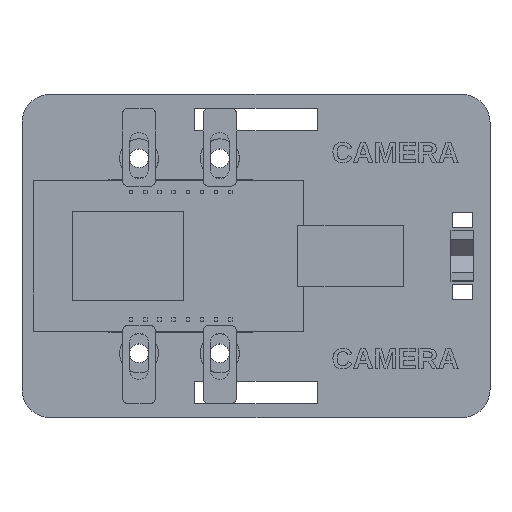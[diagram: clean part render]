
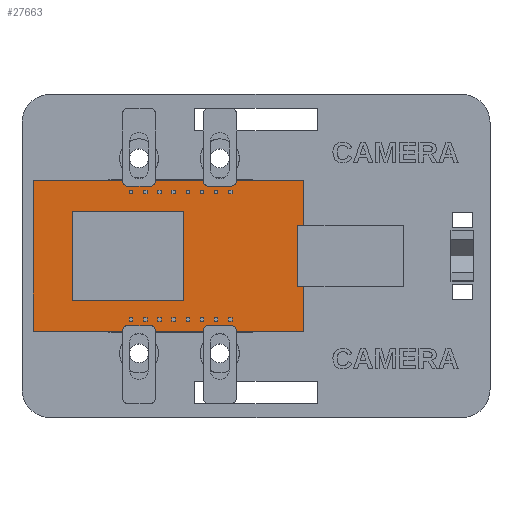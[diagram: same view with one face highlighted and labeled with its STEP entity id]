
A CAD part, top view. The second image highlights one B-rep face of the part: STEP entity #27663.
In plain terms, the highlighted planar face has unit normal (0, 0, 1).
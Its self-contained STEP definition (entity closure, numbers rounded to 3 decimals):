
#27349 = VERTEX_POINT('',#27350);
#27350 = CARTESIAN_POINT('',(-40.,-13.5,12.74));
#27357 = PLANE('',#27358);
#27358 = AXIS2_PLACEMENT_3D('',#27359,#27360,#27361);
#27359 = CARTESIAN_POINT('',(-40.,-13.5,11.14));
#27360 = DIRECTION('',(1.,0.,0.));
#27361 = DIRECTION('',(0.,0.,1.));
#27369 = PLANE('',#27370);
#27370 = AXIS2_PLACEMENT_3D('',#27371,#27372,#27373);
#27371 = CARTESIAN_POINT('',(-40.,-13.5,11.14));
#27372 = DIRECTION('',(0.,1.,0.));
#27373 = DIRECTION('',(0.,0.,1.));
#27410 = VERTEX_POINT('',#27411);
#27411 = CARTESIAN_POINT('',(-40.,13.5,12.74));
#27425 = PLANE('',#27426);
#27426 = AXIS2_PLACEMENT_3D('',#27427,#27428,#27429);
#27427 = CARTESIAN_POINT('',(-40.,13.5,11.14));
#27428 = DIRECTION('',(0.,1.,0.));
#27429 = DIRECTION('',(0.,0.,1.));
#27437 = EDGE_CURVE('',#27349,#27410,#27438,.T.);
#27438 = SURFACE_CURVE('',#27439,(#27443,#27450),.PCURVE_S1.);
#27439 = LINE('',#27440,#27441);
#27440 = CARTESIAN_POINT('',(-40.,-13.5,12.74));
#27441 = VECTOR('',#27442,1.);
#27442 = DIRECTION('',(0.,1.,0.));
#27443 = PCURVE('',#27357,#27444);
#27444 = DEFINITIONAL_REPRESENTATION('',(#27445),#27449);
#27445 = LINE('',#27446,#27447);
#27446 = CARTESIAN_POINT('',(1.6,0.));
#27447 = VECTOR('',#27448,1.);
#27448 = DIRECTION('',(0.,-1.));
#27449 = ( GEOMETRIC_REPRESENTATION_CONTEXT(2) 
PARAMETRIC_REPRESENTATION_CONTEXT() REPRESENTATION_CONTEXT('2D SPACE',''
  ) );
#27450 = PCURVE('',#27451,#27456);
#27451 = PLANE('',#27452);
#27452 = AXIS2_PLACEMENT_3D('',#27453,#27454,#27455);
#27453 = CARTESIAN_POINT('',(-40.,-13.5,12.74));
#27454 = DIRECTION('',(0.,0.,1.));
#27455 = DIRECTION('',(1.,0.,0.));
#27456 = DEFINITIONAL_REPRESENTATION('',(#27457),#27461);
#27457 = LINE('',#27458,#27459);
#27458 = CARTESIAN_POINT('',(0.,0.));
#27459 = VECTOR('',#27460,1.);
#27460 = DIRECTION('',(0.,1.));
#27461 = ( GEOMETRIC_REPRESENTATION_CONTEXT(2) 
PARAMETRIC_REPRESENTATION_CONTEXT() REPRESENTATION_CONTEXT('2D SPACE',''
  ) );
#27469 = VERTEX_POINT('',#27470);
#27470 = CARTESIAN_POINT('',(8.5,-13.5,12.74));
#27477 = PLANE('',#27478);
#27478 = AXIS2_PLACEMENT_3D('',#27479,#27480,#27481);
#27479 = CARTESIAN_POINT('',(8.5,-13.5,11.14));
#27480 = DIRECTION('',(1.,0.,0.));
#27481 = DIRECTION('',(0.,0.,1.));
#27520 = VERTEX_POINT('',#27521);
#27521 = CARTESIAN_POINT('',(8.5,13.5,12.74));
#27542 = EDGE_CURVE('',#27469,#27520,#27543,.T.);
#27543 = SURFACE_CURVE('',#27544,(#27548,#27555),.PCURVE_S1.);
#27544 = LINE('',#27545,#27546);
#27545 = CARTESIAN_POINT('',(8.5,-13.5,12.74));
#27546 = VECTOR('',#27547,1.);
#27547 = DIRECTION('',(0.,1.,0.));
#27548 = PCURVE('',#27477,#27549);
#27549 = DEFINITIONAL_REPRESENTATION('',(#27550),#27554);
#27550 = LINE('',#27551,#27552);
#27551 = CARTESIAN_POINT('',(1.6,0.));
#27552 = VECTOR('',#27553,1.);
#27553 = DIRECTION('',(0.,-1.));
#27554 = ( GEOMETRIC_REPRESENTATION_CONTEXT(2) 
PARAMETRIC_REPRESENTATION_CONTEXT() REPRESENTATION_CONTEXT('2D SPACE',''
  ) );
#27555 = PCURVE('',#27451,#27556);
#27556 = DEFINITIONAL_REPRESENTATION('',(#27557),#27561);
#27557 = LINE('',#27558,#27559);
#27558 = CARTESIAN_POINT('',(48.5,0.));
#27559 = VECTOR('',#27560,1.);
#27560 = DIRECTION('',(0.,1.));
#27561 = ( GEOMETRIC_REPRESENTATION_CONTEXT(2) 
PARAMETRIC_REPRESENTATION_CONTEXT() REPRESENTATION_CONTEXT('2D SPACE',''
  ) );
#27588 = EDGE_CURVE('',#27349,#27469,#27589,.T.);
#27589 = SURFACE_CURVE('',#27590,(#27594,#27601),.PCURVE_S1.);
#27590 = LINE('',#27591,#27592);
#27591 = CARTESIAN_POINT('',(-40.,-13.5,12.74));
#27592 = VECTOR('',#27593,1.);
#27593 = DIRECTION('',(1.,0.,0.));
#27594 = PCURVE('',#27369,#27595);
#27595 = DEFINITIONAL_REPRESENTATION('',(#27596),#27600);
#27596 = LINE('',#27597,#27598);
#27597 = CARTESIAN_POINT('',(1.6,0.));
#27598 = VECTOR('',#27599,1.);
#27599 = DIRECTION('',(0.,1.));
#27600 = ( GEOMETRIC_REPRESENTATION_CONTEXT(2) 
PARAMETRIC_REPRESENTATION_CONTEXT() REPRESENTATION_CONTEXT('2D SPACE',''
  ) );
#27601 = PCURVE('',#27451,#27602);
#27602 = DEFINITIONAL_REPRESENTATION('',(#27603),#27607);
#27603 = LINE('',#27604,#27605);
#27604 = CARTESIAN_POINT('',(0.,0.));
#27605 = VECTOR('',#27606,1.);
#27606 = DIRECTION('',(1.,0.));
#27607 = ( GEOMETRIC_REPRESENTATION_CONTEXT(2) 
PARAMETRIC_REPRESENTATION_CONTEXT() REPRESENTATION_CONTEXT('2D SPACE',''
  ) );
#27635 = EDGE_CURVE('',#27410,#27520,#27636,.T.);
#27636 = SURFACE_CURVE('',#27637,(#27641,#27648),.PCURVE_S1.);
#27637 = LINE('',#27638,#27639);
#27638 = CARTESIAN_POINT('',(-40.,13.5,12.74));
#27639 = VECTOR('',#27640,1.);
#27640 = DIRECTION('',(1.,0.,0.));
#27641 = PCURVE('',#27425,#27642);
#27642 = DEFINITIONAL_REPRESENTATION('',(#27643),#27647);
#27643 = LINE('',#27644,#27645);
#27644 = CARTESIAN_POINT('',(1.6,0.));
#27645 = VECTOR('',#27646,1.);
#27646 = DIRECTION('',(0.,1.));
#27647 = ( GEOMETRIC_REPRESENTATION_CONTEXT(2) 
PARAMETRIC_REPRESENTATION_CONTEXT() REPRESENTATION_CONTEXT('2D SPACE',''
  ) );
#27648 = PCURVE('',#27451,#27649);
#27649 = DEFINITIONAL_REPRESENTATION('',(#27650),#27654);
#27650 = LINE('',#27651,#27652);
#27651 = CARTESIAN_POINT('',(0.,27.));
#27652 = VECTOR('',#27653,1.);
#27653 = DIRECTION('',(1.,0.));
#27654 = ( GEOMETRIC_REPRESENTATION_CONTEXT(2) 
PARAMETRIC_REPRESENTATION_CONTEXT() REPRESENTATION_CONTEXT('2D SPACE',''
  ) );
#27663 = ADVANCED_FACE('',(#27664),#27451,.T.);
#27664 = FACE_BOUND('',#27665,.T.);
#27665 = EDGE_LOOP('',(#27666,#27667,#27668,#27669));
#27666 = ORIENTED_EDGE('',*,*,#27437,.F.);
#27667 = ORIENTED_EDGE('',*,*,#27588,.T.);
#27668 = ORIENTED_EDGE('',*,*,#27542,.T.);
#27669 = ORIENTED_EDGE('',*,*,#27635,.F.);
